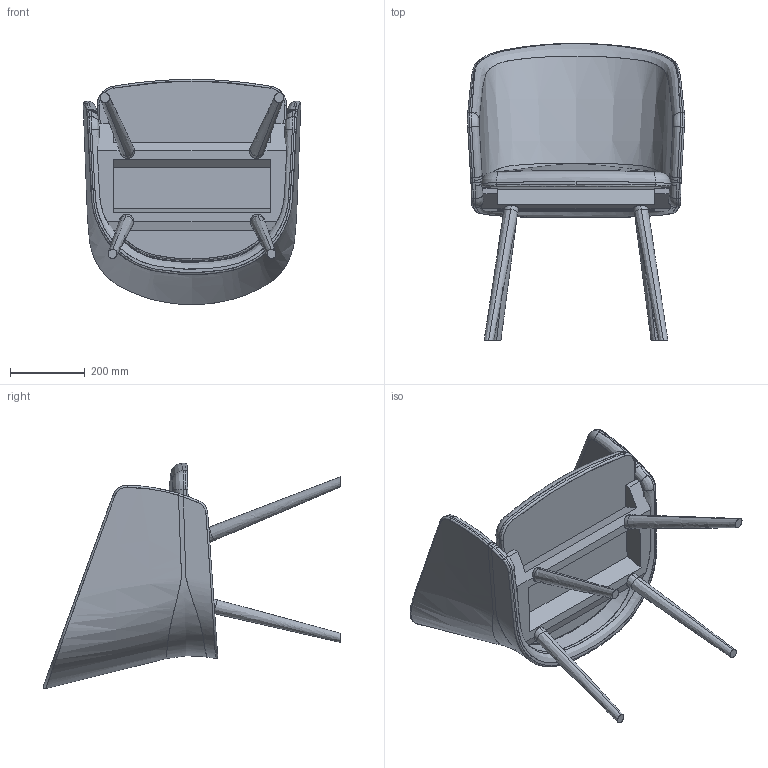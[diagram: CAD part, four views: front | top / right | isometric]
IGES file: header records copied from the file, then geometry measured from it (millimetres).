
Start section: SolidWorks IGES file using analytic representation for surfaces
Global section: file name: C:\Users\Kumagai\Desktop\406 Saia Dining Chair_vc_2017-10-31\406 Saia Dining Chair.IGS; native system: SolidWorks 2016; preprocessor: SolidWorks 2016; author: Kumagai; date: 180216.114235; units: millimetre
Bounding box: 580.2 x 793.97 x 601.83 mm (x, y, z)
Surface area: 1894784.1 mm2 (no closed solid volume)
Topology: 0 solids, 0 shells, 115 faces, 2544 edges, 2544 vertices
Faces by surface type: bspline 88, revolution 27
